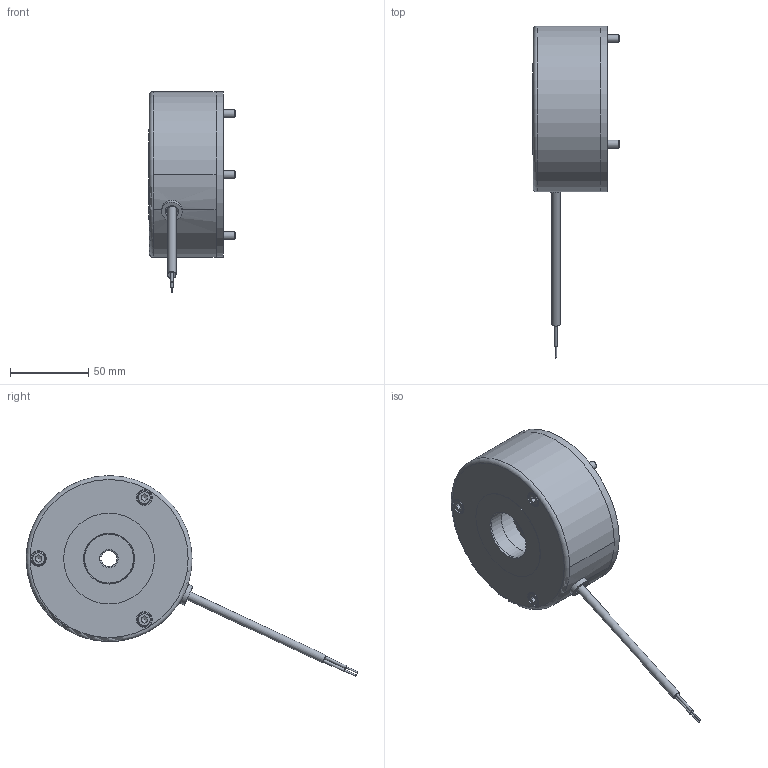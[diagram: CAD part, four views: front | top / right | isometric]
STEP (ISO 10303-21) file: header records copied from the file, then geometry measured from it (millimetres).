
FILE_DESCRIPTION(/* description */ (''),/* implementation_level */ '2;1');
FILE_NAME(/* name */ 'C:\SapWorkDir\Inventor\IP1\ConvertTempPath\5028613_IPT_000.ipt.stp',/* time_stamp */ '2020-09-10T14:01:46+02:00',/* author */ ('STRATE'),/* organization */ (''),/* preprocessor_version */ 'ST-DEVELOPER v17',/* originating_system */ 'Autodesk Inventor 2018',/* authorisation */ '');
FILE_SCHEMA (('AUTOMOTIVE_DESIGN { 1 0 10303 214 3 1 1 }'));
Length unit declared in the file: millimetre
Products named in the file (1): 5028613
Bounding box: 55.3 x 211.92 x 128.24 mm (x, y, z)
Volume: 241708.8 mm3; surface area: 95826.6 mm2
Topology: 5 solids, 5 shells, 476 faces, 1325 edges, 908 vertices
Faces by surface type: cylinder 310, plane 83, cone 52, torus 26, bspline 5
Full cylindrical faces by diameter (mm): 1 x2, 1.85 x2, 2.2 x14, 3.242 x2, 5 x3, 5.2 x3, 5.3 x1, 5.4 x14, 5.5 x7, 5.9 x2, 6 x2, 6.2 x14, 6.6 x1, 6.7 x1, 8.5 x3, 8.9 x3, 9.2 x1, 10 x3, 13.2 x1, 32 x1, 41.5 x1, 42 x1, 55.5 x2, 57 x1, 58 x1, 76.5 x1, 98 x1, 104 x2, 106 x1
Entity records: 17251 total; most frequent: CARTESIAN_POINT 4267, DIRECTION 2642, ORIENTED_EDGE 2612, EDGE_CURVE 1306, AXIS2_PLACEMENT_3D 1116, VERTEX_POINT 908, CIRCLE 644, EDGE_LOOP 564
